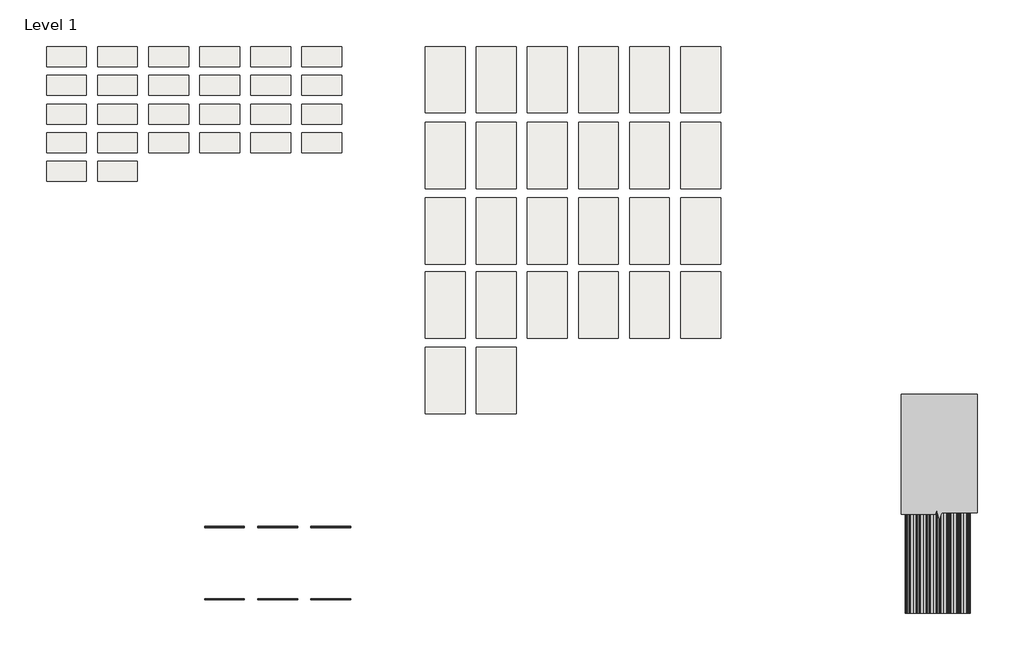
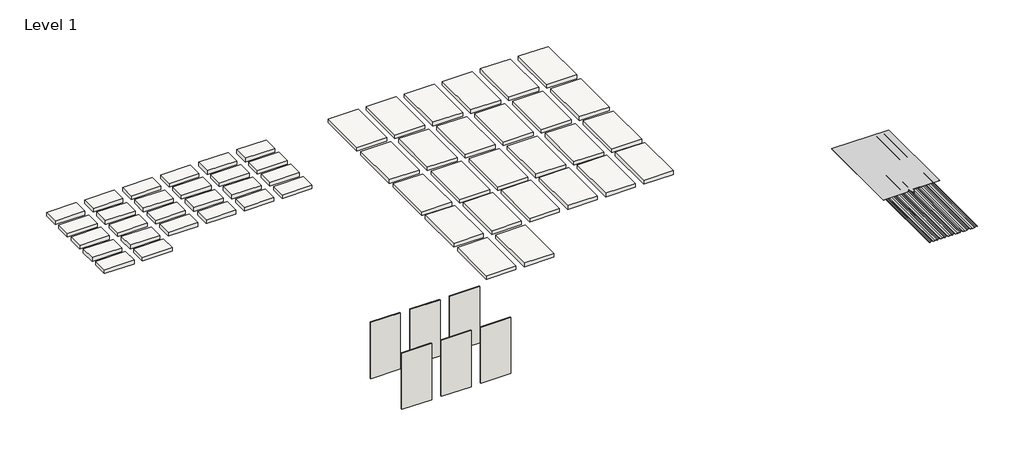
# One storey: 52 slabs, 6 walls, 2 proxies.
"""IFC4 building model written with IfcOpenShell, lengths in millimetres."""

from ifc_helpers import new_model, si_unit, frame, origin, origin_with_axes, place, context, project, spatial, polyline, outline, extrude, transform, mapped, element, save
from components import section_mask2_section_mask_ae3e71fc, proxy_758662c8

model = new_model("IFC4")

# Units and contexts
model_context = context("Model", 3, world=origin())
ifc_project = project(units=[si_unit("LENGTHUNIT", "METRE", prefix="MILLI")], contexts=[model_context])

# Site, building, storey
site = spatial("IfcSite", under=ifc_project)
building = spatial("IfcBuilding", under=site)
storey = spatial("IfcBuildingStorey", under=building, Name="Level 1", Elevation=0.0)

# Proxies
placement = place(None, origin())
section_mask2_section_mask_shape = section_mask2_section_mask_ae3e71fc(model_context)
element("IfcBuildingElementProxy", 1, Name="Section Mask2 : Section Mask", ObjectType="Section Mask2 : Section Mask", at=placement, inside=storey, context=model_context, shape_type="MappedRepresentation", body=[
    mapped(section_mask2_section_mask_shape, transform((242.4623297, -275.8300996, -14.2875), x_axis=(1.0, 0.0, 0.0), y_axis=(0.0, 1.0, 0.0), z_axis=(0.0, 0.0, 1.0))),
])
proxy_shape = proxy_758662c8(model_context)
element("IfcBuildingElementProxy", 2, Name="U-Panel_Panel_AEP_Span : 36\" U-Panel Panel - 22ga", ObjectType="U-Panel_Panel_AEP_Span : 36\" U-Panel Panel - 22ga", at=placement, inside=storey, context=model_context, shape_type="MappedRepresentation", body=[
    mapped(proxy_shape, transform((8726.6424454, 2141.4522943, 0.0), x_axis=(1.0, 0.0, 0.0), y_axis=(0.0, 1.0, 0.0), z_axis=(0.0, 0.0, 1.0))),
])

# Slabs
element("IfcSlab", 3, ObjectType="AEP Span Material Sample", at=placement, inside=storey, context=model_context, shape_type="SweptSolid", body=[
    extrude(outline(polyline([(-4307.8660775, 7199.3976846), (-4917.4660775, 7199.3976846), (-4917.4660775, 7504.1976846), (-4307.8660775, 7504.1976846), (-4307.8660775, 7199.3976846)])), frame((0.0, 0.0, -79.375), z_axis=(0.0, 0.0, 1.0), x_axis=(1.0, 0.0, 0.0)), (0.0, 0.0, 1.0), 79.375),
])
element("IfcSlab", 4, ObjectType="AEP Span Material Sample", at=placement, inside=storey, context=model_context, shape_type="SweptSolid", body=[
    extrude(outline(polyline([(-3526.8160775, 7199.3976846), (-4136.4160775, 7199.3976846), (-4136.4160775, 7504.1976846), (-3526.8160775, 7504.1976846), (-3526.8160775, 7199.3976846)])), frame((0.0, 0.0, -79.375), z_axis=(0.0, 0.0, 1.0), x_axis=(1.0, 0.0, 0.0)), (0.0, 0.0, 1.0), 79.375),
])
element("IfcSlab", 5, ObjectType="AEP Span Material Sample", at=placement, inside=storey, context=model_context, shape_type="SweptSolid", body=[
    extrude(outline(polyline([(-2745.7660775, 7199.3976846), (-3355.3660775, 7199.3976846), (-3355.3660775, 7504.1976846), (-2745.7660775, 7504.1976846), (-2745.7660775, 7199.3976846)])), frame((0.0, 0.0, -79.375), z_axis=(0.0, 0.0, 1.0), x_axis=(1.0, 0.0, 0.0)), (0.0, 0.0, 1.0), 79.375),
])
element("IfcSlab", 6, ObjectType="AEP Span Material Sample", at=placement, inside=storey, context=model_context, shape_type="SweptSolid", body=[
    extrude(outline(polyline([(-1964.7160775, 7199.3976846), (-2574.3160775, 7199.3976846), (-2574.3160775, 7504.1976846), (-1964.7160775, 7504.1976846), (-1964.7160775, 7199.3976846)])), frame((0.0, 0.0, -79.375), z_axis=(0.0, 0.0, 1.0), x_axis=(1.0, 0.0, 0.0)), (0.0, 0.0, 1.0), 79.375),
])
element("IfcSlab", 7, ObjectType="AEP Span Material Sample", at=placement, inside=storey, context=model_context, shape_type="SweptSolid", body=[
    extrude(outline(polyline([(-1183.6660775, 7199.3976846), (-1793.2660775, 7199.3976846), (-1793.2660775, 7504.1976846), (-1183.6660775, 7504.1976846), (-1183.6660775, 7199.3976846)])), frame((0.0, 0.0, -79.375), z_axis=(0.0, 0.0, 1.0), x_axis=(1.0, 0.0, 0.0)), (0.0, 0.0, 1.0), 79.375),
])
element("IfcSlab", 8, ObjectType="AEP Span Material Sample", at=placement, inside=storey, context=model_context, shape_type="SweptSolid", body=[
    extrude(outline(polyline([(-402.6160775, 7199.3976846), (-1012.2160775, 7199.3976846), (-1012.2160775, 7504.1976846), (-402.6160775, 7504.1976846), (-402.6160775, 7199.3976846)])), frame((0.0, 0.0, -79.375), z_axis=(0.0, 0.0, 1.0), x_axis=(1.0, 0.0, 0.0)), (0.0, 0.0, 1.0), 79.375),
])
element("IfcSlab", 9, ObjectType="AEP Span Material Sample", at=placement, inside=storey, context=model_context, shape_type="SweptSolid", body=[
    extrude(outline(polyline([(-4307.8660775, 6761.2476846), (-4917.4660775, 6761.2476846), (-4917.4660775, 7066.0476846), (-4307.8660775, 7066.0476846), (-4307.8660775, 6761.2476846)])), frame((0.0, 0.0, -79.375), z_axis=(0.0, 0.0, 1.0), x_axis=(1.0, 0.0, 0.0)), (0.0, 0.0, 1.0), 79.375),
])
element("IfcSlab", 10, ObjectType="AEP Span Material Sample", at=placement, inside=storey, context=model_context, shape_type="SweptSolid", body=[
    extrude(outline(polyline([(-3526.8160775, 6761.2476846), (-4136.4160775, 6761.2476846), (-4136.4160775, 7066.0476846), (-3526.8160775, 7066.0476846), (-3526.8160775, 6761.2476846)])), frame((0.0, 0.0, -79.375), z_axis=(0.0, 0.0, 1.0), x_axis=(1.0, 0.0, 0.0)), (0.0, 0.0, 1.0), 79.375),
])
element("IfcSlab", 11, ObjectType="AEP Span Material Sample", at=placement, inside=storey, context=model_context, shape_type="SweptSolid", body=[
    extrude(outline(polyline([(-2745.7660775, 6761.2476846), (-3355.3660775, 6761.2476846), (-3355.3660775, 7066.0476846), (-2745.7660775, 7066.0476846), (-2745.7660775, 6761.2476846)])), frame((0.0, 0.0, -79.375), z_axis=(0.0, 0.0, 1.0), x_axis=(1.0, 0.0, 0.0)), (0.0, 0.0, 1.0), 79.375),
])
element("IfcSlab", 12, ObjectType="AEP Span Material Sample", at=placement, inside=storey, context=model_context, shape_type="SweptSolid", body=[
    extrude(outline(polyline([(-1964.7160775, 6761.2476846), (-2574.3160775, 6761.2476846), (-2574.3160775, 7066.0476846), (-1964.7160775, 7066.0476846), (-1964.7160775, 6761.2476846)])), frame((0.0, 0.0, -79.375), z_axis=(0.0, 0.0, 1.0), x_axis=(1.0, 0.0, 0.0)), (0.0, 0.0, 1.0), 79.375),
])
element("IfcSlab", 13, ObjectType="AEP Span Material Sample", at=placement, inside=storey, context=model_context, shape_type="SweptSolid", body=[
    extrude(outline(polyline([(-1183.6660775, 6761.2476846), (-1793.2660775, 6761.2476846), (-1793.2660775, 7066.0476846), (-1183.6660775, 7066.0476846), (-1183.6660775, 6761.2476846)])), frame((0.0, 0.0, -79.375), z_axis=(0.0, 0.0, 1.0), x_axis=(1.0, 0.0, 0.0)), (0.0, 0.0, 1.0), 79.375),
])
element("IfcSlab", 14, ObjectType="AEP Span Material Sample", at=placement, inside=storey, context=model_context, shape_type="SweptSolid", body=[
    extrude(outline(polyline([(-402.6160775, 6761.2476846), (-1012.2160775, 6761.2476846), (-1012.2160775, 7066.0476846), (-402.6160775, 7066.0476846), (-402.6160775, 6761.2476846)])), frame((0.0, 0.0, -79.375), z_axis=(0.0, 0.0, 1.0), x_axis=(1.0, 0.0, 0.0)), (0.0, 0.0, 1.0), 79.375),
])
element("IfcSlab", 15, ObjectType="AEP Span Material Sample", at=placement, inside=storey, context=model_context, shape_type="SweptSolid", body=[
    extrude(outline(polyline([(-4307.8660775, 6323.0976846), (-4917.4660775, 6323.0976846), (-4917.4660775, 6627.8976846), (-4307.8660775, 6627.8976846), (-4307.8660775, 6323.0976846)])), frame((0.0, 0.0, -79.375), z_axis=(0.0, 0.0, 1.0), x_axis=(1.0, 0.0, 0.0)), (0.0, 0.0, 1.0), 79.375),
])
element("IfcSlab", 16, ObjectType="AEP Span Material Sample", at=placement, inside=storey, context=model_context, shape_type="SweptSolid", body=[
    extrude(outline(polyline([(-3526.8160775, 6323.0976846), (-4136.4160775, 6323.0976846), (-4136.4160775, 6627.8976846), (-3526.8160775, 6627.8976846), (-3526.8160775, 6323.0976846)])), frame((0.0, 0.0, -79.375), z_axis=(0.0, 0.0, 1.0), x_axis=(1.0, 0.0, 0.0)), (0.0, 0.0, 1.0), 79.375),
])
element("IfcSlab", 17, ObjectType="AEP Span Material Sample", at=placement, inside=storey, context=model_context, shape_type="SweptSolid", body=[
    extrude(outline(polyline([(-2745.7660775, 6323.0976846), (-3355.3660775, 6323.0976846), (-3355.3660775, 6627.8976846), (-2745.7660775, 6627.8976846), (-2745.7660775, 6323.0976846)])), frame((0.0, 0.0, -79.375), z_axis=(0.0, 0.0, 1.0), x_axis=(1.0, 0.0, 0.0)), (0.0, 0.0, 1.0), 79.375),
])
element("IfcSlab", 18, ObjectType="AEP Span Material Sample", at=placement, inside=storey, context=model_context, shape_type="SweptSolid", body=[
    extrude(outline(polyline([(-1964.7160775, 6323.0976846), (-2574.3160775, 6323.0976846), (-2574.3160775, 6627.8976846), (-1964.7160775, 6627.8976846), (-1964.7160775, 6323.0976846)])), frame((0.0, 0.0, -79.375), z_axis=(0.0, 0.0, 1.0), x_axis=(1.0, 0.0, 0.0)), (0.0, 0.0, 1.0), 79.375),
])
element("IfcSlab", 19, ObjectType="AEP Span Material Sample", at=placement, inside=storey, context=model_context, shape_type="SweptSolid", body=[
    extrude(outline(polyline([(-1183.6660775, 6323.0976846), (-1793.2660775, 6323.0976846), (-1793.2660775, 6627.8976846), (-1183.6660775, 6627.8976846), (-1183.6660775, 6323.0976846)])), frame((0.0, 0.0, -79.375), z_axis=(0.0, 0.0, 1.0), x_axis=(1.0, 0.0, 0.0)), (0.0, 0.0, 1.0), 79.375),
])
element("IfcSlab", 20, ObjectType="AEP Span Material Sample", at=placement, inside=storey, context=model_context, shape_type="SweptSolid", body=[
    extrude(outline(polyline([(-402.6160775, 6323.0976846), (-1012.2160775, 6323.0976846), (-1012.2160775, 6627.8976846), (-402.6160775, 6627.8976846), (-402.6160775, 6323.0976846)])), frame((0.0, 0.0, -79.375), z_axis=(0.0, 0.0, 1.0), x_axis=(1.0, 0.0, 0.0)), (0.0, 0.0, 1.0), 79.375),
])
element("IfcSlab", 21, ObjectType="AEP Span Material Sample", at=placement, inside=storey, context=model_context, shape_type="SweptSolid", body=[
    extrude(outline(polyline([(-4307.8660775, 5884.9476846), (-4917.4660775, 5884.9476846), (-4917.4660775, 6189.7476846), (-4307.8660775, 6189.7476846), (-4307.8660775, 5884.9476846)])), frame((0.0, 0.0, -79.375), z_axis=(0.0, 0.0, 1.0), x_axis=(1.0, 0.0, 0.0)), (0.0, 0.0, 1.0), 79.375),
])
element("IfcSlab", 22, ObjectType="AEP Span Material Sample", at=placement, inside=storey, context=model_context, shape_type="SweptSolid", body=[
    extrude(outline(polyline([(-3526.8160775, 5884.9476846), (-4136.4160775, 5884.9476846), (-4136.4160775, 6189.7476846), (-3526.8160775, 6189.7476846), (-3526.8160775, 5884.9476846)])), frame((0.0, 0.0, -79.375), z_axis=(0.0, 0.0, 1.0), x_axis=(1.0, 0.0, 0.0)), (0.0, 0.0, 1.0), 79.375),
])
element("IfcSlab", 23, ObjectType="AEP Span Material Sample", at=placement, inside=storey, context=model_context, shape_type="SweptSolid", body=[
    extrude(outline(polyline([(-2745.7660775, 5884.9476846), (-3355.3660775, 5884.9476846), (-3355.3660775, 6189.7476846), (-2745.7660775, 6189.7476846), (-2745.7660775, 5884.9476846)])), frame((0.0, 0.0, -79.375), z_axis=(0.0, 0.0, 1.0), x_axis=(1.0, 0.0, 0.0)), (0.0, 0.0, 1.0), 79.375),
])
element("IfcSlab", 24, ObjectType="AEP Span Material Sample", at=placement, inside=storey, context=model_context, shape_type="SweptSolid", body=[
    extrude(outline(polyline([(-1964.7160775, 5884.9476846), (-2574.3160775, 5884.9476846), (-2574.3160775, 6189.7476846), (-1964.7160775, 6189.7476846), (-1964.7160775, 5884.9476846)])), frame((0.0, 0.0, -79.375), z_axis=(0.0, 0.0, 1.0), x_axis=(1.0, 0.0, 0.0)), (0.0, 0.0, 1.0), 79.375),
])
element("IfcSlab", 25, ObjectType="AEP Span Material Sample", at=placement, inside=storey, context=model_context, shape_type="SweptSolid", body=[
    extrude(outline(polyline([(-1183.6660775, 5884.9476846), (-1793.2660775, 5884.9476846), (-1793.2660775, 6189.7476846), (-1183.6660775, 6189.7476846), (-1183.6660775, 5884.9476846)])), frame((0.0, 0.0, -79.375), z_axis=(0.0, 0.0, 1.0), x_axis=(1.0, 0.0, 0.0)), (0.0, 0.0, 1.0), 79.375),
])
element("IfcSlab", 26, ObjectType="AEP Span Material Sample", at=placement, inside=storey, context=model_context, shape_type="SweptSolid", body=[
    extrude(outline(polyline([(-402.6160775, 5884.9476846), (-1012.2160775, 5884.9476846), (-1012.2160775, 6189.7476846), (-402.6160775, 6189.7476846), (-402.6160775, 5884.9476846)])), frame((0.0, 0.0, -79.375), z_axis=(0.0, 0.0, 1.0), x_axis=(1.0, 0.0, 0.0)), (0.0, 0.0, 1.0), 79.375),
])
element("IfcSlab", 27, ObjectType="AEP Span Material Sample", at=placement, inside=storey, context=model_context, shape_type="SweptSolid", body=[
    extrude(outline(polyline([(-4307.8660775, 5446.7976846), (-4917.4660775, 5446.7976846), (-4917.4660775, 5751.5976846), (-4307.8660775, 5751.5976846), (-4307.8660775, 5446.7976846)])), frame((0.0, 0.0, -79.375), z_axis=(0.0, 0.0, 1.0), x_axis=(1.0, 0.0, 0.0)), (0.0, 0.0, 1.0), 79.375),
])
element("IfcSlab", 28, ObjectType="AEP Span Material Sample", at=placement, inside=storey, context=model_context, shape_type="SweptSolid", body=[
    extrude(outline(polyline([(-3526.8160775, 5446.7976846), (-4136.4160775, 5446.7976846), (-4136.4160775, 5751.5976846), (-3526.8160775, 5751.5976846), (-3526.8160775, 5446.7976846)])), frame((0.0, 0.0, -79.375), z_axis=(0.0, 0.0, 1.0), x_axis=(1.0, 0.0, 0.0)), (0.0, 0.0, 1.0), 79.375),
])
element("IfcSlab", 29, ObjectType="AEP Span Material Sample", at=placement, inside=storey, context=model_context, shape_type="SweptSolid", body=[
    extrude(outline(polyline([(1485.5495194, 6492.0895229), (875.9495194, 6492.0895229), (875.9495194, 7508.0895229), (1485.5495194, 7508.0895229), (1485.5495194, 6492.0895229)])), frame((0.0, 0.0, -79.375), z_axis=(0.0, 0.0, 1.0), x_axis=(1.0, 0.0, 0.0)), (0.0, 0.0, 1.0), 79.375),
])
element("IfcSlab", 30, ObjectType="AEP Span Material Sample", at=placement, inside=storey, context=model_context, shape_type="SweptSolid", body=[
    extrude(outline(polyline([(2266.5995194, 6492.0895229), (1656.9995194, 6492.0895229), (1656.9995194, 7508.0895229), (2266.5995194, 7508.0895229), (2266.5995194, 6492.0895229)])), frame((0.0, 0.0, -79.375), z_axis=(0.0, 0.0, 1.0), x_axis=(1.0, 0.0, 0.0)), (0.0, 0.0, 1.0), 79.375),
])
element("IfcSlab", 31, ObjectType="AEP Span Material Sample", at=placement, inside=storey, context=model_context, shape_type="SweptSolid", body=[
    extrude(outline(polyline([(3047.6495194, 6492.0895229), (2438.0495194, 6492.0895229), (2438.0495194, 7508.0895229), (3047.6495194, 7508.0895229), (3047.6495194, 6492.0895229)])), frame((0.0, 0.0, -79.375), z_axis=(0.0, 0.0, 1.0), x_axis=(1.0, 0.0, 0.0)), (0.0, 0.0, 1.0), 79.375),
])
element("IfcSlab", 32, ObjectType="AEP Span Material Sample", at=placement, inside=storey, context=model_context, shape_type="SweptSolid", body=[
    extrude(outline(polyline([(3828.6995194, 6492.0895229), (3219.0995194, 6492.0895229), (3219.0995194, 7508.0895229), (3828.6995194, 7508.0895229), (3828.6995194, 6492.0895229)])), frame((0.0, 0.0, -79.375), z_axis=(0.0, 0.0, 1.0), x_axis=(1.0, 0.0, 0.0)), (0.0, 0.0, 1.0), 79.375),
])
element("IfcSlab", 33, ObjectType="AEP Span Material Sample", at=placement, inside=storey, context=model_context, shape_type="SweptSolid", body=[
    extrude(outline(polyline([(4609.7495194, 6492.0895229), (4000.1495194, 6492.0895229), (4000.1495194, 7508.0895229), (4609.7495194, 7508.0895229), (4609.7495194, 6492.0895229)])), frame((0.0, 0.0, -79.375), z_axis=(0.0, 0.0, 1.0), x_axis=(1.0, 0.0, 0.0)), (0.0, 0.0, 1.0), 79.375),
])
element("IfcSlab", 34, ObjectType="AEP Span Material Sample", at=placement, inside=storey, context=model_context, shape_type="SweptSolid", body=[
    extrude(outline(polyline([(5390.7995194, 6492.0895229), (4781.1995194, 6492.0895229), (4781.1995194, 7508.0895229), (5390.7995194, 7508.0895229), (5390.7995194, 6492.0895229)])), frame((0.0, 0.0, -79.375), z_axis=(0.0, 0.0, 1.0), x_axis=(1.0, 0.0, 0.0)), (0.0, 0.0, 1.0), 79.375),
])
element("IfcSlab", 35, ObjectType="AEP Span Material Sample", at=placement, inside=storey, context=model_context, shape_type="SweptSolid", body=[
    extrude(outline(polyline([(1485.5495194, 5336.3895229), (875.9495194, 5336.3895229), (875.9495194, 6352.3895229), (1485.5495194, 6352.3895229), (1485.5495194, 5336.3895229)])), frame((0.0, 0.0, -79.375), z_axis=(0.0, 0.0, 1.0), x_axis=(1.0, 0.0, 0.0)), (0.0, 0.0, 1.0), 79.375),
])
element("IfcSlab", 36, ObjectType="AEP Span Material Sample", at=placement, inside=storey, context=model_context, shape_type="SweptSolid", body=[
    extrude(outline(polyline([(2266.5995194, 5336.3895229), (1656.9995194, 5336.3895229), (1656.9995194, 6352.3895229), (2266.5995194, 6352.3895229), (2266.5995194, 5336.3895229)])), frame((0.0, 0.0, -79.375), z_axis=(0.0, 0.0, 1.0), x_axis=(1.0, 0.0, 0.0)), (0.0, 0.0, 1.0), 79.375),
])
element("IfcSlab", 37, ObjectType="AEP Span Material Sample", at=placement, inside=storey, context=model_context, shape_type="SweptSolid", body=[
    extrude(outline(polyline([(3047.6495194, 5336.3895229), (2438.0495194, 5336.3895229), (2438.0495194, 6352.3895229), (3047.6495194, 6352.3895229), (3047.6495194, 5336.3895229)])), frame((0.0, 0.0, -79.375), z_axis=(0.0, 0.0, 1.0), x_axis=(1.0, 0.0, 0.0)), (0.0, 0.0, 1.0), 79.375),
])
element("IfcSlab", 38, ObjectType="AEP Span Material Sample", at=placement, inside=storey, context=model_context, shape_type="SweptSolid", body=[
    extrude(outline(polyline([(3828.6995194, 5336.3895229), (3219.0995194, 5336.3895229), (3219.0995194, 6352.3895229), (3828.6995194, 6352.3895229), (3828.6995194, 5336.3895229)])), frame((0.0, 0.0, -79.375), z_axis=(0.0, 0.0, 1.0), x_axis=(1.0, 0.0, 0.0)), (0.0, 0.0, 1.0), 79.375),
])
element("IfcSlab", 39, ObjectType="AEP Span Material Sample", at=placement, inside=storey, context=model_context, shape_type="SweptSolid", body=[
    extrude(outline(polyline([(4609.7495194, 5336.3895229), (4000.1495194, 5336.3895229), (4000.1495194, 6352.3895229), (4609.7495194, 6352.3895229), (4609.7495194, 5336.3895229)])), frame((0.0, 0.0, -79.375), z_axis=(0.0, 0.0, 1.0), x_axis=(1.0, 0.0, 0.0)), (0.0, 0.0, 1.0), 79.375),
])
element("IfcSlab", 40, ObjectType="AEP Span Material Sample", at=placement, inside=storey, context=model_context, shape_type="SweptSolid", body=[
    extrude(outline(polyline([(5390.7995194, 5336.3895229), (4781.1995194, 5336.3895229), (4781.1995194, 6352.3895229), (5390.7995194, 6352.3895229), (5390.7995194, 5336.3895229)])), frame((0.0, 0.0, -79.375), z_axis=(0.0, 0.0, 1.0), x_axis=(1.0, 0.0, 0.0)), (0.0, 0.0, 1.0), 79.375),
])
element("IfcSlab", 41, ObjectType="AEP Span Material Sample", at=placement, inside=storey, context=model_context, shape_type="SweptSolid", body=[
    extrude(outline(polyline([(1485.5495194, 4180.6895229), (875.9495194, 4180.6895229), (875.9495194, 5196.6895229), (1485.5495194, 5196.6895229), (1485.5495194, 4180.6895229)])), frame((0.0, 0.0, -79.375), z_axis=(0.0, 0.0, 1.0), x_axis=(1.0, 0.0, 0.0)), (0.0, 0.0, 1.0), 79.375),
])
element("IfcSlab", 42, ObjectType="AEP Span Material Sample", at=placement, inside=storey, context=model_context, shape_type="SweptSolid", body=[
    extrude(outline(polyline([(2266.5995194, 4180.6895229), (1656.9995194, 4180.6895229), (1656.9995194, 5196.6895229), (2266.5995194, 5196.6895229), (2266.5995194, 4180.6895229)])), frame((0.0, 0.0, -79.375), z_axis=(0.0, 0.0, 1.0), x_axis=(1.0, 0.0, 0.0)), (0.0, 0.0, 1.0), 79.375),
])
element("IfcSlab", 43, ObjectType="AEP Span Material Sample", at=placement, inside=storey, context=model_context, shape_type="SweptSolid", body=[
    extrude(outline(polyline([(3047.6495194, 4180.6895229), (2438.0495194, 4180.6895229), (2438.0495194, 5196.6895229), (3047.6495194, 5196.6895229), (3047.6495194, 4180.6895229)])), frame((0.0, 0.0, -79.375), z_axis=(0.0, 0.0, 1.0), x_axis=(1.0, 0.0, 0.0)), (0.0, 0.0, 1.0), 79.375),
])
element("IfcSlab", 44, ObjectType="AEP Span Material Sample", at=placement, inside=storey, context=model_context, shape_type="SweptSolid", body=[
    extrude(outline(polyline([(3828.6995194, 4180.6895229), (3219.0995194, 4180.6895229), (3219.0995194, 5196.6895229), (3828.6995194, 5196.6895229), (3828.6995194, 4180.6895229)])), frame((0.0, 0.0, -79.375), z_axis=(0.0, 0.0, 1.0), x_axis=(1.0, 0.0, 0.0)), (0.0, 0.0, 1.0), 79.375),
])
element("IfcSlab", 45, ObjectType="AEP Span Material Sample", at=placement, inside=storey, context=model_context, shape_type="SweptSolid", body=[
    extrude(outline(polyline([(4609.7495194, 4180.6895229), (4000.1495194, 4180.6895229), (4000.1495194, 5196.6895229), (4609.7495194, 5196.6895229), (4609.7495194, 4180.6895229)])), frame((0.0, 0.0, -79.375), z_axis=(0.0, 0.0, 1.0), x_axis=(1.0, 0.0, 0.0)), (0.0, 0.0, 1.0), 79.375),
])
element("IfcSlab", 46, ObjectType="AEP Span Material Sample", at=placement, inside=storey, context=model_context, shape_type="SweptSolid", body=[
    extrude(outline(polyline([(5390.7995194, 4180.6895229), (4781.1995194, 4180.6895229), (4781.1995194, 5196.6895229), (5390.7995194, 5196.6895229), (5390.7995194, 4180.6895229)])), frame((0.0, 0.0, -79.375), z_axis=(0.0, 0.0, 1.0), x_axis=(1.0, 0.0, 0.0)), (0.0, 0.0, 1.0), 79.375),
])
element("IfcSlab", 47, ObjectType="AEP Span Material Sample", at=placement, inside=storey, context=model_context, shape_type="SweptSolid", body=[
    extrude(outline(polyline([(1485.5495194, 3050.3895229), (875.9495194, 3050.3895229), (875.9495194, 4066.3895229), (1485.5495194, 4066.3895229), (1485.5495194, 3050.3895229)])), frame((0.0, 0.0, -79.375), z_axis=(0.0, 0.0, 1.0), x_axis=(1.0, 0.0, 0.0)), (0.0, 0.0, 1.0), 79.375),
])
element("IfcSlab", 48, ObjectType="AEP Span Material Sample", at=placement, inside=storey, context=model_context, shape_type="SweptSolid", body=[
    extrude(outline(polyline([(2266.5995194, 3050.3895229), (1656.9995194, 3050.3895229), (1656.9995194, 4066.3895229), (2266.5995194, 4066.3895229), (2266.5995194, 3050.3895229)])), frame((0.0, 0.0, -79.375), z_axis=(0.0, 0.0, 1.0), x_axis=(1.0, 0.0, 0.0)), (0.0, 0.0, 1.0), 79.375),
])
element("IfcSlab", 49, ObjectType="AEP Span Material Sample", at=placement, inside=storey, context=model_context, shape_type="SweptSolid", body=[
    extrude(outline(polyline([(3047.6495194, 3050.3895229), (2438.0495194, 3050.3895229), (2438.0495194, 4066.3895229), (3047.6495194, 4066.3895229), (3047.6495194, 3050.3895229)])), frame((0.0, 0.0, -79.375), z_axis=(0.0, 0.0, 1.0), x_axis=(1.0, 0.0, 0.0)), (0.0, 0.0, 1.0), 79.375),
])
element("IfcSlab", 50, ObjectType="AEP Span Material Sample", at=placement, inside=storey, context=model_context, shape_type="SweptSolid", body=[
    extrude(outline(polyline([(3828.6995194, 3050.3895229), (3219.0995194, 3050.3895229), (3219.0995194, 4066.3895229), (3828.6995194, 4066.3895229), (3828.6995194, 3050.3895229)])), frame((0.0, 0.0, -79.375), z_axis=(0.0, 0.0, 1.0), x_axis=(1.0, 0.0, 0.0)), (0.0, 0.0, 1.0), 79.375),
])
element("IfcSlab", 51, ObjectType="AEP Span Material Sample", at=placement, inside=storey, context=model_context, shape_type="SweptSolid", body=[
    extrude(outline(polyline([(4609.7495194, 3050.3895229), (4000.1495194, 3050.3895229), (4000.1495194, 4066.3895229), (4609.7495194, 4066.3895229), (4609.7495194, 3050.3895229)])), frame((0.0, 0.0, -79.375), z_axis=(0.0, 0.0, 1.0), x_axis=(1.0, 0.0, 0.0)), (0.0, 0.0, 1.0), 79.375),
])
element("IfcSlab", 52, ObjectType="AEP Span Material Sample", at=placement, inside=storey, context=model_context, shape_type="SweptSolid", body=[
    extrude(outline(polyline([(5390.7995194, 3050.3895229), (4781.1995194, 3050.3895229), (4781.1995194, 4066.3895229), (5390.7995194, 4066.3895229), (5390.7995194, 3050.3895229)])), frame((0.0, 0.0, -79.375), z_axis=(0.0, 0.0, 1.0), x_axis=(1.0, 0.0, 0.0)), (0.0, 0.0, 1.0), 79.375),
])
element("IfcSlab", 53, ObjectType="AEP Span Material Sample", at=placement, inside=storey, context=model_context, shape_type="SweptSolid", body=[
    extrude(outline(polyline([(1485.5495194, 1894.6895229), (875.9495194, 1894.6895229), (875.9495194, 2910.6895229), (1485.5495194, 2910.6895229), (1485.5495194, 1894.6895229)])), frame((0.0, 0.0, -79.375), z_axis=(0.0, 0.0, 1.0), x_axis=(1.0, 0.0, 0.0)), (0.0, 0.0, 1.0), 79.375),
])
element("IfcSlab", 54, ObjectType="AEP Span Material Sample", at=placement, inside=storey, context=model_context, shape_type="SweptSolid", body=[
    extrude(outline(polyline([(2266.5995194, 1894.6895229), (1656.9995194, 1894.6895229), (1656.9995194, 2910.6895229), (2266.5995194, 2910.6895229), (2266.5995194, 1894.6895229)])), frame((0.0, 0.0, -79.375), z_axis=(0.0, 0.0, 1.0), x_axis=(1.0, 0.0, 0.0)), (0.0, 0.0, 1.0), 79.375),
])

# Walls
element("IfcWall", 55, ObjectType="36\" U-Panel - Horizontal - 22ga", at=placement, inside=storey, context=model_context, shape_type="SweptSolid", body=[
    extrude(outline(polyline([(-1890.5575546, 150.7272943), (-2500.1575546, 150.7272943), (-2500.1575546, 169.7772943), (-1890.5575546, 169.7772943), (-1890.5575546, 150.7272943)])), origin_with_axes(), (0.0, 0.0, 1.0), 1219.2),
])
element("IfcWall", 56, ObjectType="36\" U-Panel - Horizontal - 24ga", at=placement, inside=storey, context=model_context, shape_type="SweptSolid", body=[
    extrude(outline(polyline([(-1077.7575546, 150.7272943), (-1687.3575546, 150.7272943), (-1687.3575546, 169.7772943), (-1077.7575546, 169.7772943), (-1077.7575546, 150.7272943)])), origin_with_axes(), (0.0, 0.0, 1.0), 1219.2),
])
element("IfcWall", 57, ObjectType="36\" U-Panel - Horizontal - 26ga", at=placement, inside=storey, context=model_context, shape_type="SweptSolid", body=[
    extrude(outline(polyline([(-264.9575546, 150.7272943), (-874.5575546, 150.7272943), (-874.5575546, 169.7772943), (-264.9575546, 169.7772943), (-264.9575546, 150.7272943)])), origin_with_axes(), (0.0, 0.0, 1.0), 1219.2),
])
element("IfcWall", 58, ObjectType="36\" U-Panel - Vertical - 22ga", at=placement, inside=storey, context=model_context, shape_type="SweptSolid", body=[
    extrude(outline(polyline([(-1890.5575546, -954.1727057), (-2500.1575546, -954.1727057), (-2500.1575546, -935.1227057), (-1890.5575546, -935.1227057), (-1890.5575546, -954.1727057)])), origin_with_axes(), (0.0, 0.0, 1.0), 1219.2),
])
element("IfcWall", 59, ObjectType="36\" U-Panel - Vertical - 24ga", at=placement, inside=storey, context=model_context, shape_type="SweptSolid", body=[
    extrude(outline(polyline([(-1077.7575546, -954.1727057), (-1687.3575546, -954.1727057), (-1687.3575546, -935.1227057), (-1077.7575546, -935.1227057), (-1077.7575546, -954.1727057)])), origin_with_axes(), (0.0, 0.0, 1.0), 1219.2),
])
element("IfcWall", 60, ObjectType="36\" U-Panel - Vertical - 26ga", at=placement, inside=storey, context=model_context, shape_type="SweptSolid", body=[
    extrude(outline(polyline([(-264.9575546, -954.1727057), (-874.5575546, -954.1727057), (-874.5575546, -935.1227057), (-264.9575546, -935.1227057), (-264.9575546, -954.1727057)])), origin_with_axes(), (0.0, 0.0, 1.0), 1219.2),
])

save(model, "model.ifc")
